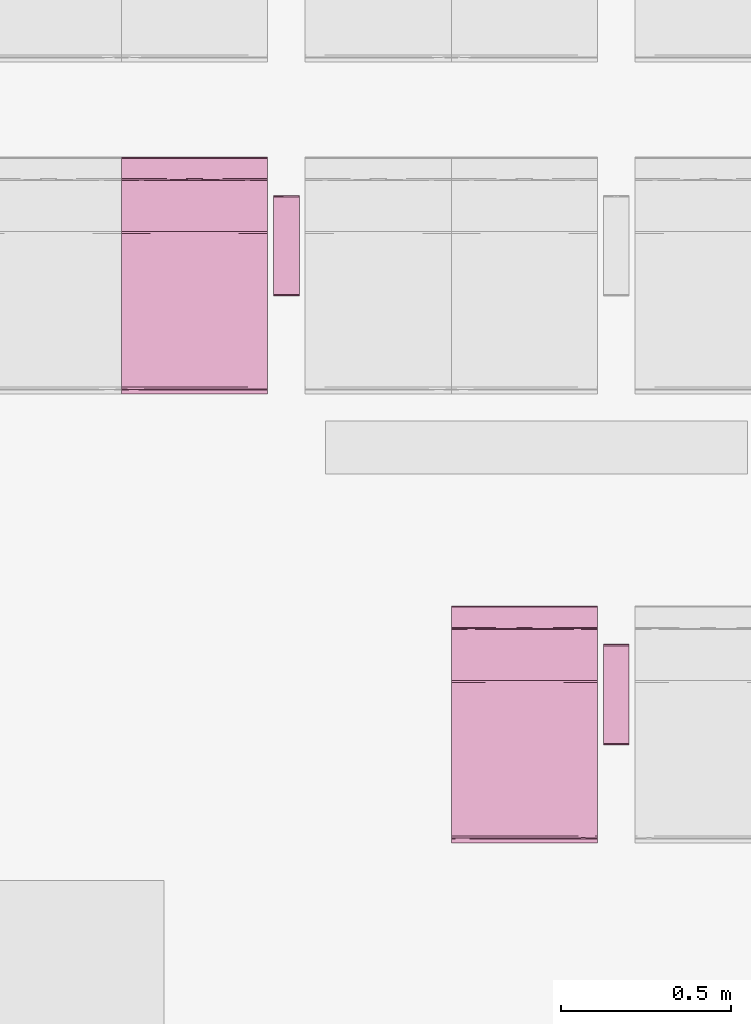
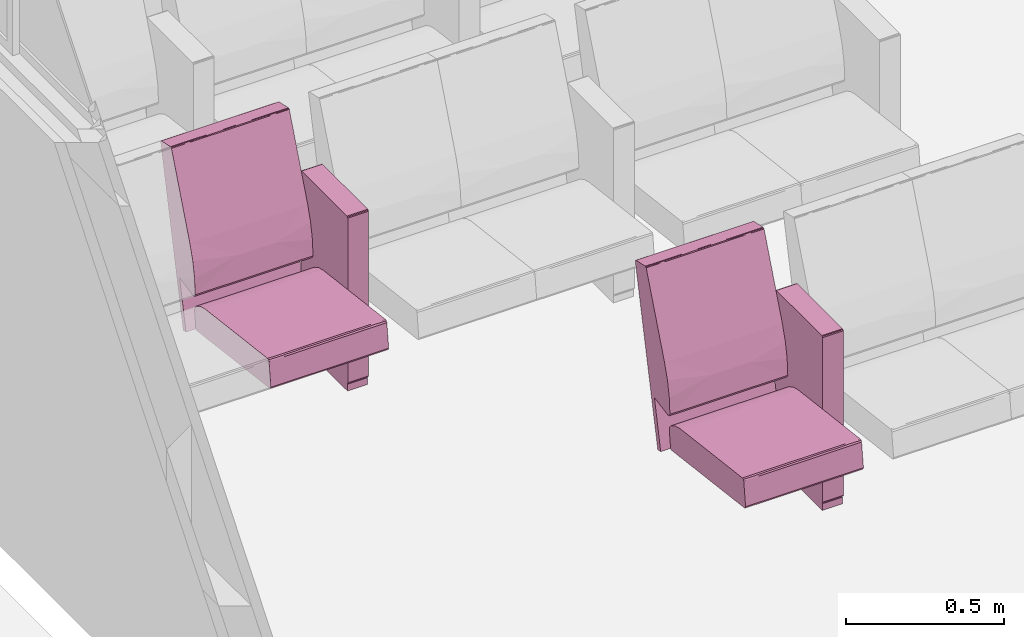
# One storey, part 81 of 155: 2 furnishings.
"""IFC2X3 building model written with IfcOpenShell, lengths in metres."""

import ifcopenshell
import ifcopenshell.guid

model = None  # the IFC model being written
_history = None  # IfcOwnerHistory: only IFC2X3 demands one
_inside = {}  # id of a spatial element -> (the spatial element, [elements in it])
_under = {}  # id of a project, library or spatial element -> (it, [spatial elements below it])
_declared = {}  # id of a project -> (the project, [libraries it declares])
_typed = {}  # id of a type object -> (the type object, [elements of that type])
_made_of = {}  # id of a material, layer set ... -> (it, [elements and type objects made of it])


def new_model(schema):
    """Start an empty IFC model of exactly this schema.

    Asked for "IFC4X3", IfcOpenShell would pick the latest addendum, in which some entities
    have other attributes; the version numbers below select the first issue.
    IFC2X3 requires an IfcOwnerHistory on every rooted entity: one is made here for all.
    """
    global model, _history
    if schema == "IFC4X3":
        model = ifcopenshell.file(schema_version=(4, 3, 0, 0))
    else:
        model = ifcopenshell.file(schema=schema)
    _inside.clear()
    _under.clear()
    _declared.clear()
    _typed.clear()
    _made_of.clear()
    _history = None
    if model.schema == "IFC2X3":
        org = make("IfcOrganization", Name="unknown")
        user = make(
            "IfcPersonAndOrganization",
            ThePerson=make("IfcPerson", FamilyName="unknown"),
            TheOrganization=org,
        )
        app = make(
            "IfcApplication",
            ApplicationDeveloper=org,
            Version="unknown",
            ApplicationFullName="unknown",
            ApplicationIdentifier="unknown",
        )
        _history = make(
            "IfcOwnerHistory",
            OwningUser=user,
            OwningApplication=app,
            ChangeAction="ADDED",
            CreationDate=0,
        )
    return model


def make(cls, **values):
    """One entity of the class cls with the attributes given. An attribute that is None is left unset."""
    return model.create_entity(
        cls, **{name: value for name, value in values.items() if value is not None}
    )


def entity(cls, *values):
    """Any entity or typed value of the class cls, its attributes in the order of the schema. None: left unset."""
    e = model.create_entity(cls)
    for i, value in enumerate(values):
        if value is not None:
            e[i] = value
    return e


def rooted(cls, **values):
    """An entity with a GlobalId (a new one), such as an element, a storey or a relation."""
    return make(cls, GlobalId=ifcopenshell.guid.new(), OwnerHistory=_history, **values)


def si_unit(unit_type, name, prefix=None):
    """IfcSIUnit, for example si_unit("LENGTHUNIT", "METRE", prefix="MILLI")."""
    return make("IfcSIUnit", UnitType=unit_type, Prefix=prefix, Name=name)


def converted_unit(unit_type, name, factor, base, dimensions=None, offset=None):
    """IfcConversionBasedUnit, such as the inch: factor (a typed value) times the base unit."""
    return make(
        "IfcConversionBasedUnit"
        if offset is None
        else "IfcConversionBasedUnitWithOffset",
        ConversionOffset=offset,
        Dimensions=None
        if dimensions is None
        else entity("IfcDimensionalExponents", *dimensions),
        UnitType=unit_type,
        Name=name,
        ConversionFactor=make(
            "IfcMeasureWithUnit", ValueComponent=factor, UnitComponent=base
        ),
    )


def derived_unit(unit_type, elements):
    """IfcDerivedUnit: a product of units, each with its exponent."""
    return make(
        "IfcDerivedUnit",
        Elements=[
            make("IfcDerivedUnitElement", Unit=unit, Exponent=power)
            for unit, power in elements
        ],
        UnitType=unit_type,
    )


def assignment(units):
    """IfcUnitAssignment: the units of a project."""
    return None if units is None else make("IfcUnitAssignment", Units=units)


def point(xyz):
    """IfcCartesianPoint."""
    return None if xyz is None else make("IfcCartesianPoint", Coordinates=xyz)


def direction(xyz):
    """IfcDirection."""
    return None if xyz is None else make("IfcDirection", DirectionRatios=xyz)


def frame(location, z_axis=None, x_axis=None):
    """IfcAxis2Placement3D, a coordinate frame: its origin and axes. An axis left out is left unset."""
    return make(
        "IfcAxis2Placement3D",
        Location=point(location),
        Axis=direction(z_axis),
        RefDirection=direction(x_axis),
    )


def origin():
    """The frame at (0, 0, 0) with its axes left unset."""
    return frame((0.0, 0.0, 0.0))


def place(relative_to, where):
    """IfcLocalPlacement: puts the frame where relative to a parent placement (None: the world)."""
    return make(
        "IfcLocalPlacement", PlacementRelTo=relative_to, RelativePlacement=where
    )


def context(
    kind, dimensions, precision=None, world=None, true_north=None, identifier=None
):
    """IfcGeometricRepresentationContext, for example the 3D "Model" context."""
    return make(
        "IfcGeometricRepresentationContext",
        ContextIdentifier=identifier,
        ContextType=kind,
        CoordinateSpaceDimension=dimensions,
        Precision=precision,
        WorldCoordinateSystem=world,
        TrueNorth=true_north,
    )


def subcontext(parent, identifier, kind, view, scale=None):
    """IfcGeometricRepresentationSubContext, for example "Body" below "Model"."""
    return make(
        "IfcGeometricRepresentationSubContext",
        ContextIdentifier=identifier,
        ContextType=kind,
        ParentContext=parent,
        TargetScale=scale,
        TargetView=view,
    )


def project(units=None, contexts=None):
    """IfcProject with its units and contexts."""
    return rooted(
        "IfcProject",
        Name="project",
        RepresentationContexts=contexts,
        UnitsInContext=assignment(units),
    )


def spatial(cls, under=None, at=None, **own):
    """A site, building, storey or space (cls), placed at a placement, below another one or the project."""
    s = rooted(cls, ObjectPlacement=at, **own)
    if under is not None:
        _under.setdefault(under.id(), (under, []))[1].append(s)
    return s


def faces_of(points, faces, orient=None, outer=None):
    """IfcFace entities. A face is a list of loops; a loop is a list of indices into points, from 0.

    orient and outer hold one flag for each loop. By default every Orientation is true, the
    first loop of a face is its IfcFaceOuterBound and the others are IfcFaceBound.
    """
    made = []
    for i, loops in enumerate(faces):
        bounds = []
        for j, loop in enumerate(loops):
            is_outer = j == 0 if outer is None else outer[i][j]
            bounds.append(
                make(
                    "IfcFaceOuterBound" if is_outer else "IfcFaceBound",
                    Bound=make("IfcPolyLoop", Polygon=[points[k] for k in loop]),
                    Orientation=True if orient is None else orient[i][j],
                )
            )
        made.append(make("IfcFace", Bounds=bounds))
    return made


def faceted_brep(points, faces, orient=None, outer=None, voids=None):
    """IfcFacetedBrep: a solid bounded by flat faces; with voids (closed shells), ...WithVoids."""
    shared = [point(p) for p in points]
    hull = make("IfcClosedShell", CfsFaces=faces_of(shared, faces, orient, outer))
    if voids is None:
        return make("IfcFacetedBrep", Outer=hull)
    return make(
        "IfcFacetedBrepWithVoids",
        Outer=hull,
        Voids=[
            make(cls, CfsFaces=faces_of(shared, fs, o, b)) for cls, fs, o, b in voids
        ],
    )


def shape(context_of_items, identifier, shape_type, items):
    """IfcShapeRepresentation: the items that make up one representation, for example the "Body"."""
    return make(
        "IfcShapeRepresentation",
        ContextOfItems=context_of_items,
        RepresentationIdentifier=identifier,
        RepresentationType=shape_type,
        Items=items,
    )


def source(mapping_origin, context_of_items, identifier, shape_type, items):
    """IfcRepresentationMap: a shape defined once, which mapped items show again and again."""
    return make(
        "IfcRepresentationMap",
        MappingOrigin=mapping_origin,
        MappedRepresentation=shape(context_of_items, identifier, shape_type, items),
    )


def transform(
    local_origin,
    x_axis=None,
    y_axis=None,
    z_axis=None,
    scale=None,
    scale2=None,
    scale3=None,
    uniform=True,
):
    """IfcCartesianTransformationOperator3D, or its non-uniform kind. x_axis, y_axis, z_axis: its Axis1, 2, 3."""
    if uniform:
        return make(
            "IfcCartesianTransformationOperator3D",
            Axis1=direction(x_axis),
            Axis2=direction(y_axis),
            LocalOrigin=point(local_origin),
            Scale=scale,
            Axis3=direction(z_axis),
        )
    return make(
        "IfcCartesianTransformationOperator3DnonUniform",
        Axis1=direction(x_axis),
        Axis2=direction(y_axis),
        LocalOrigin=point(local_origin),
        Scale=scale,
        Axis3=direction(z_axis),
        Scale2=scale2,
        Scale3=scale3,
    )


def mapped(mapping_source, mapping_target):
    """IfcMappedItem: shows the shape of a source again, moved by a transform."""
    return make(
        "IfcMappedItem", MappingSource=mapping_source, MappingTarget=mapping_target
    )


def material(Name=None, Category=None):
    """IfcMaterial."""
    return make("IfcMaterial", Name=Name, Category=Category)


def material_list(materials):
    """IfcMaterialList."""
    return make("IfcMaterialList", Materials=materials)


def made_of(thing, what):
    """Note that an element or type object is made of a material, layer set ...; save() writes the relation."""
    if what is not None:
        _made_of.setdefault(what.id(), (what, []))[1].append(thing)
    return thing


def type_object(cls, material=None, **own):
    """A type object (cls), such as IfcWallType, which elements share."""
    return made_of(rooted(cls, **own), material)


def type_shapes(of_type, sources):
    """Give a type object the sources (RepresentationMaps) that its elements show as mapped items."""
    of_type.RepresentationMaps = sources


def element(
    cls,
    number,
    at=None,
    inside=None,
    cuts=None,
    type_object=None,
    material=None,
    context=None,
    identifier="Body",
    shape_type=None,
    held_by="IfcProductDefinitionShape",
    body=None,
    shapes=None,
    **own,
):
    """One element of the class cls, such as IfcWall. Its Tag is "e" and its number.

    at: its placement. inside: the storey or other place that contains it. cuts: it is an
    opening in that element (IfcRelVoidsElement). A single representation is given by context,
    identifier, shape_type and body (its items); several are given by shapes. held_by: the class
    of the entity that holds the representations. save() writes the other relations.
    """
    e = rooted(cls, Tag="e%d" % number, ObjectPlacement=at, **own)
    if body is not None:
        shapes = [shape(context, identifier, shape_type, body)]
    if shapes is not None:
        e.Representation = make(held_by, Representations=shapes)
    if inside is not None:
        _inside.setdefault(inside.id(), (inside, []))[1].append(e)
    if cuts is not None:
        rooted(
            "IfcRelVoidsElement", RelatingBuildingElement=cuts, RelatedOpeningElement=e
        )
    if type_object is not None:
        _typed.setdefault(type_object.id(), (type_object, []))[1].append(e)
    return made_of(e, material)


def aggregate(whole, parts):
    """IfcRelAggregates: a whole, such as a stair, and the parts it consists of."""
    return rooted("IfcRelAggregates", RelatingObject=whole, RelatedObjects=parts)


def save(model, path):
    """Write the relations noted so far, then the file.

    IfcRelAggregates (storeys below a building ...), IfcRelContainedInSpatialStructure (elements
    in a storey), IfcRelDefinesByType, IfcRelAssociatesMaterial and IfcRelDeclares: one each for
    every whole, place, type object, material and project.
    """
    for whole, parts in _under.values():
        aggregate(whole, parts)
    for where, things in _inside.values():
        rooted(
            "IfcRelContainedInSpatialStructure",
            RelatedElements=things,
            RelatingStructure=where,
        )
    for kind, things in _typed.values():
        rooted("IfcRelDefinesByType", RelatedObjects=things, RelatingType=kind)
    for what, things in _made_of.values():
        rooted("IfcRelAssociatesMaterial", RelatedObjects=things, RelatingMaterial=what)
    for by, libraries in _declared.values():
        rooted("IfcRelDeclares", RelatingContext=by, RelatedDefinitions=libraries)
    model.write(path)


model = new_model("IFC2X3")

# Units and contexts
model_context = context("Model", 3, precision=1e-05, world=origin(), true_north=direction((6.12303176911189e-17, 1.0)))
body_context = subcontext(model_context, "Body", "Model", "MODEL_VIEW")
ifc_project = project(units=[si_unit("LENGTHUNIT", "METRE"), si_unit("AREAUNIT", "SQUARE_METRE"), si_unit("VOLUMEUNIT", "CUBIC_METRE"), converted_unit("PLANEANGLEUNIT", "DEGREE", entity("IfcRatioMeasure", 0.0174532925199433), si_unit("PLANEANGLEUNIT", "RADIAN"), dimensions=[0, 0, 0, 0, 0, 0, 0]), si_unit("MASSUNIT", "GRAM", prefix="KILO"), derived_unit("MASSDENSITYUNIT", [(si_unit("MASSUNIT", "GRAM", prefix="KILO"), 1), (si_unit("LENGTHUNIT", "METRE"), -3)]), si_unit("TIMEUNIT", "SECOND"), si_unit("FREQUENCYUNIT", "HERTZ"), si_unit("THERMODYNAMICTEMPERATUREUNIT", "DEGREE_CELSIUS"), derived_unit("THERMALTRANSMITTANCEUNIT", [(si_unit("MASSUNIT", "GRAM", prefix="KILO"), 1), (si_unit("THERMODYNAMICTEMPERATUREUNIT", "KELVIN"), -1), (si_unit("TIMEUNIT", "SECOND"), -3)]), derived_unit("VOLUMETRICFLOWRATEUNIT", [(si_unit("LENGTHUNIT", "METRE"), 3), (si_unit("TIMEUNIT", "SECOND"), -1)]), si_unit("ELECTRICCURRENTUNIT", "AMPERE"), si_unit("ELECTRICVOLTAGEUNIT", "VOLT"), si_unit("POWERUNIT", "WATT"), si_unit("FORCEUNIT", "NEWTON", prefix="KILO"), si_unit("ILLUMINANCEUNIT", "LUX"), si_unit("LUMINOUSFLUXUNIT", "LUMEN"), si_unit("LUMINOUSINTENSITYUNIT", "CANDELA"), derived_unit("USERDEFINED", [(si_unit("MASSUNIT", "GRAM", prefix="KILO"), -1), (si_unit("LENGTHUNIT", "METRE"), -2), (si_unit("TIMEUNIT", "SECOND"), 3), (si_unit("LUMINOUSFLUXUNIT", "LUMEN"), 1)]), derived_unit("LINEARVELOCITYUNIT", [(si_unit("LENGTHUNIT", "METRE"), 1), (si_unit("TIMEUNIT", "SECOND"), -1)]), si_unit("PRESSUREUNIT", "PASCAL"), derived_unit("USERDEFINED", [(si_unit("LENGTHUNIT", "METRE"), -2), (si_unit("MASSUNIT", "GRAM", prefix="KILO"), 1), (si_unit("TIMEUNIT", "SECOND"), -2)])], contexts=[model_context])

# Site, building, storey, space
site_placement = place(None, frame((26.9889013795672, -17.5624287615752, 0.0)))
site = spatial("IfcSite", under=ifc_project, at=site_placement, Name="Default", CompositionType="ELEMENT")
building_placement = place(site_placement, origin())
building = spatial("IfcBuilding", under=site, at=building_placement, Name="C. C. L. Monsenhor Antônio Sampaio", CompositionType="ELEMENT")
storey_placement = place(building_placement, frame((0.0, 0.0, 1.19999999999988)))
storey = spatial("IfcBuildingStorey", under=building, at=storey_placement, Name="Nível 1.2", CompositionType="ELEMENT", Elevation=1.19999999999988)
space_placement = place(storey_placement, origin())
space = spatial("IfcSpace", under=storey, at=space_placement, Name="94", CompositionType="ELEMENT", InteriorOrExteriorSpace="INTERNAL")

# Furnishings
ifc_material_1 = material(Name="V9 - V9 - Ecopelle_672_658")
ifc_material_2 = material(Name="V9 - V9 - RAL_9006_Grigio")
ifc_material_list_1 = material_list([ifc_material_1, ifc_material_2])
ifc_material_list_2 = material_list([ifc_material_1, ifc_material_2])
furniture_type = type_object("IfcFurnitureType", Name="Cadeira auditório", material=ifc_material_list_2)
shared_shape = source(origin(), body_context, "Body", "Brep", [
    faceted_brep([(0.405536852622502, -0.1075, 0.339809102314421), (0.410560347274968, -0.131924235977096, 0.34246450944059), (0.405536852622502, -0.156348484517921, 0.339809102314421), (0.41079981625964, -0.0179166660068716, 0.342749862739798), (0.410597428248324, -0.084060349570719, 0.342506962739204), (0.405536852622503, -0.0537499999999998, 0.339809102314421), (0.410248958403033, -0.173608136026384, 0.342130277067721), (0.405536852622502, -0.215, 0.339809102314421), (0.412515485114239, -0.143333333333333, 0.348529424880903), (0.412515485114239, -0.185674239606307, 0.348529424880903), (0.405536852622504, 0.1075, 0.33980910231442), (0.405536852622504, 0.156348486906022, 0.33980910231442), (0.410560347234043, 0.131924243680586, 0.342464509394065), (0.405536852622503, 0.0, 0.33980910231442), (0.411170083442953, 0.0341365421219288, 0.343251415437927), (0.41251548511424, 0.0, 0.348529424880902), (0.412515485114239, -0.0358333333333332, 0.348529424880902), (0.412515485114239, -0.0716666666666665, 0.348529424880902), (0.41251548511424, 0.143333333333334, 0.348529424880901), (0.41059742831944, 0.0840603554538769, 0.342506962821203), (0.405536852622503, 0.0537500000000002, 0.33980910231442), (0.410248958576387, 0.173608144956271, 0.342130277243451), (0.410799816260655, 0.215, 0.342749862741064), (0.412515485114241, 0.185674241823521, 0.348529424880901), (0.412515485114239, -0.215, 0.348529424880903), (0.410799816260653, -0.215, 0.342749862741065), (0.412515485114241, 0.215, 0.348529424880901), (0.41251548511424, 0.0716666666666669, 0.348529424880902), (0.405536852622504, 0.215, 0.33980910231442), (-0.0557900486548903, -0.215, 0.28268145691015), (-0.0557900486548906, -0.1881249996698, 0.282681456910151), (-0.0557900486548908, -0.161250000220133, 0.282681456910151), (-0.055790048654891, -0.134374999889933, 0.282681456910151), (-0.0557900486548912, -0.107499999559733, 0.282681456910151), (-0.0557900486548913, -0.0806250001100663, 0.282681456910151), (-0.0557900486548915, -0.0537499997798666, 0.282681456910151), (-0.0557900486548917, -0.0268749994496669, 0.282681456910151), (-0.0557900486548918, 0.0, 0.28268145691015), (-0.0557900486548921, 0.0268750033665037, 0.282681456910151), (-0.0557900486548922, 0.0537499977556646, 0.282681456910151), (-0.0557900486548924, 0.0806249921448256, 0.282681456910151), (-0.0557900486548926, 0.107499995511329, 0.282681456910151), (-0.0557900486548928, 0.138065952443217, 0.282681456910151), (-0.055790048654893, 0.168631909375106, 0.282681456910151), (-0.0557900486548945, 0.215, 0.28268145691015), (-0.0594787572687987, -0.0179017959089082, 0.283700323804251), (-0.0613666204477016, 0.0, 0.287029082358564), (-0.0594787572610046, 0.0152829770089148, 0.283700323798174), (-0.0594787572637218, -0.215, 0.283700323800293), (-0.0613666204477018, -0.215, 0.287029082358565), (-0.0613666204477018, -0.191815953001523, 0.287029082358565), (-0.0613666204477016, -0.030565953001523, 0.287029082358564), (-0.0593340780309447, -0.0671874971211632, 0.283591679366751), (-0.0593337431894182, 0.184174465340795, 0.283591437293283), (-0.0594787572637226, 0.215, 0.283700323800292), (-0.0593023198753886, 0.0940625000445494, 0.283568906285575), (-0.0613666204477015, 0.0611319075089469, 0.287029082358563), (-0.0613666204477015, 0.0916978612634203, 0.287029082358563), (-0.0613666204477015, 0.122263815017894, 0.287029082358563), (-0.0597338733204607, -0.147039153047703, 0.283913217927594), (-0.0613666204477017, -0.122263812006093, 0.287029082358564), (-0.059382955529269, -0.118123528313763, 0.28362747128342), (-0.0592501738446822, -0.180223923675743, 0.283532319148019), (-0.0613666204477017, -0.168631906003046, 0.287029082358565), (-0.0588783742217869, -0.0926899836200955, 0.283298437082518), (-0.0613666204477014, 0.168631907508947, 0.287029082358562), (-0.0613666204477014, 0.215, 0.287029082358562), (-0.0592576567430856, 0.123736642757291, 0.283537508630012), (-0.0594787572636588, 0.153348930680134, 0.283700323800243), (-0.0613666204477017, -0.0916978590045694, 0.287029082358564), (-0.0613666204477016, 0.0305659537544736, 0.287029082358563), (-0.059645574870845, 0.045848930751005, 0.283836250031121), (-0.0613666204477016, -0.0611319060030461, 0.287029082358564), (-0.0693403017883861, 0.143333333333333, 0.351419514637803), (-0.069340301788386, 0.215, 0.351419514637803), (-0.0693403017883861, -0.215, 0.351419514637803), (-0.0693403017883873, -0.143333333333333, 0.351419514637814), (-0.069340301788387, -0.0716666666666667, 0.351419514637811), (-0.0693403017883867, 0.0, 0.351419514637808), (-0.0693403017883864, 0.0716666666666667, 0.351419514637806), (-0.0653387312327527, -0.0126787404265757, 0.368680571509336), (-0.0645543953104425, -0.112272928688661, 0.369803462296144), (-0.0597085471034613, 0.0, 0.37476954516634), (-0.0655136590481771, 0.104400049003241, 0.368411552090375), (-0.0681665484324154, 0.0888707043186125, 0.36292533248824), (-0.0694879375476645, -0.0590582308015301, 0.356377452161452), (-0.0695056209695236, 0.125492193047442, 0.356093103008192), (-0.0597085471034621, 0.110316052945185, 0.374769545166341), (-0.0676206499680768, -0.215, 0.364371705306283), (-0.0672851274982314, -0.108066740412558, 0.365148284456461), (-0.0690003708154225, -0.132942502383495, 0.359900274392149), (-0.068624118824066, -0.215, 0.356813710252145), (-0.0686241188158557, 0.214999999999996, 0.356813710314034), (-0.0694502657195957, 0.0358333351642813, 0.356863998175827), (-0.0686999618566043, -0.035833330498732, 0.36116674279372), (-0.067620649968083, 0.214999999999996, 0.364371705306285), (-0.063664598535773, 0.214999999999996, 0.369570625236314), (-0.0597085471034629, 0.214999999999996, 0.374769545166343), (-0.0597085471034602, -0.110316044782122, 0.374769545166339), (-0.0636645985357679, -0.215, 0.36957062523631), (-0.0597085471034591, -0.215, 0.374769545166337), (-0.0018793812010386, -0.215, 0.398686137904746), (-0.0324117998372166, -0.0436847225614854, 0.39063968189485), (-0.0324117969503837, -0.215, 0.390639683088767), (-0.041847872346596, 0.0856576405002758, 0.386239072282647), (-0.00187938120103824, 0.102488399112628, 0.398686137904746), (-0.00187938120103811, 0.215, 0.398686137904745), (-0.0324117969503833, 0.215, 0.390639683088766), (-0.0219042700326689, 0.0570631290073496, 0.394412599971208), (-0.00187938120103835, 0.0, 0.398686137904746), (0.392202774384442, -0.215, 0.447486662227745), (0.392202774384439, -0.156349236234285, 0.447486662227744), (0.392202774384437, -0.107499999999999, 0.447486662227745), (0.392202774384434, -0.0537499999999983, 0.447486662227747), (0.392202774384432, 0.0, 0.447486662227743), (0.392202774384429, 0.0537500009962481, 0.44748666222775), (0.392202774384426, 0.107500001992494, 0.447486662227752), (0.392202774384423, 0.156349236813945, 0.447486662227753), (0.392202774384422, 0.215, 0.447486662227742), (0.397860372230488, 0.0827732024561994, 0.446039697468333), (0.401125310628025, 0.0976984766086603, 0.440530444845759), (0.398104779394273, 0.131924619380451, 0.445856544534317), (0.397373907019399, 0.173462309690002, 0.446363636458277), (0.401125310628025, 0.156349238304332, 0.440530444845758), (0.401125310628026, 0.215000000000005, 0.440530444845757), (0.398104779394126, 0.215000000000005, 0.445856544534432), (0.397860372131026, -0.0827731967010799, 0.446039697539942), (0.398104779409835, -0.131924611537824, 0.445856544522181), (0.398104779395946, -0.0268749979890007, 0.445856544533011), (0.398104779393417, 0.0237489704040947, 0.445856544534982), (0.401125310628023, -0.0488492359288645, 0.440530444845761), (0.401125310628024, 0.0488492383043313, 0.44053044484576), (0.398774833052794, -0.173462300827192, 0.445271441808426), (0.401125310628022, -0.0976984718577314, 0.440530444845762), (0.39810477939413, -0.215, 0.445856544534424), (0.401125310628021, -0.215, 0.440530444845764), (0.401125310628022, -0.156349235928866, 0.440530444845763), (0.401125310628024, 0.0, 0.44053044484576)], [[[0, 1, 2]], [[3, 4, 5]], [[2, 6, 7]], [[8, 9, 6]], [[10, 11, 12]], [[13, 3, 5]], [[3, 14, 15]], [[1, 4, 8]], [[6, 1, 8]], [[4, 3, 16]], [[16, 17, 8, 4]], [[12, 18, 19]], [[4, 1, 0]], [[20, 14, 13]], [[21, 22, 23]], [[15, 16, 3]], [[9, 24, 25]], [[26, 23, 22]], [[7, 6, 25]], [[12, 11, 21]], [[19, 14, 20]], [[4, 0, 5]], [[14, 27, 15]], [[13, 14, 3]], [[19, 18, 27]], [[19, 10, 12]], [[18, 21, 23]], [[10, 19, 20]], [[19, 27, 14]], [[2, 1, 6]], [[21, 11, 28]], [[25, 6, 9]], [[18, 12, 21]], [[22, 21, 28]], [[28, 11, 10, 20, 13, 5, 0, 2, 7, 29, 30, 31, 32, 33, 34, 35, 36, 37, 38, 39, 40, 41, 42, 43, 44]], [[45, 46, 47]], [[48, 49, 50]], [[51, 45, 52]], [[53, 54, 44]], [[55, 56, 57, 58]], [[59, 60, 61]], [[62, 63, 59]], [[34, 64, 52]], [[53, 65, 66]], [[41, 67, 42]], [[37, 36, 35, 45, 47, 38]], [[43, 42, 68]], [[29, 48, 30]], [[59, 31, 62]], [[62, 48, 50]], [[61, 69, 64]], [[65, 53, 68]], [[50, 63, 62]], [[62, 30, 48]], [[55, 58, 67]], [[32, 31, 59]], [[46, 70, 47]], [[65, 68, 58]], [[55, 40, 71]], [[70, 56, 71]], [[61, 33, 32]], [[59, 63, 60]], [[39, 38, 71, 40]], [[47, 71, 38]], [[51, 46, 45]], [[70, 71, 47]], [[71, 56, 55]], [[40, 55, 41]], [[67, 68, 42]], [[43, 68, 53]], [[43, 53, 44]], [[66, 54, 53]], [[68, 67, 58]], [[55, 67, 41]], [[72, 51, 52, 69]], [[62, 31, 30]], [[59, 61, 32]], [[35, 52, 45]], [[64, 34, 33]], [[34, 52, 35]], [[61, 60, 69]], [[52, 64, 69]], [[61, 64, 33]], [[73, 74, 66, 65, 58, 57, 56, 70, 46, 51, 72, 69, 60, 63, 50, 49, 75, 76, 77, 78, 79]], [[80, 81, 82]], [[83, 84, 80]], [[85, 78, 77, 76]], [[73, 79, 86]], [[80, 82, 83]], [[87, 83, 82]], [[88, 89, 90]], [[76, 75, 91]], [[92, 74, 73]], [[91, 90, 85]], [[80, 89, 81]], [[84, 93, 94]], [[84, 86, 93]], [[93, 78, 85]], [[73, 86, 92]], [[94, 93, 85]], [[95, 92, 84]], [[78, 93, 79]], [[80, 84, 94]], [[83, 96, 95]], [[94, 85, 90]], [[87, 97, 96]], [[98, 99, 100]], [[91, 85, 76]], [[94, 90, 89]], [[90, 91, 88]], [[89, 80, 94]], [[89, 99, 81]], [[89, 88, 99]], [[82, 81, 98]], [[81, 99, 98]], [[92, 86, 84]], [[93, 86, 79]], [[84, 83, 95]], [[96, 83, 87]], [[101, 102, 103]], [[104, 97, 87, 82]], [[105, 106, 107]], [[107, 108, 105]], [[109, 102, 101]], [[82, 102, 104]], [[102, 108, 104]], [[103, 102, 100]], [[97, 104, 107]], [[104, 108, 107]], [[102, 82, 98, 100]], [[105, 108, 109]], [[108, 102, 109]], [[109, 101, 110, 111, 112, 113, 114, 115, 116, 117, 118, 106, 105]], [[119, 120, 121]], [[122, 123, 124]], [[122, 125, 118]], [[126, 113, 112]], [[117, 121, 122]], [[121, 117, 116]], [[112, 111, 127]], [[113, 128, 129, 115, 114]], [[126, 130, 128]], [[129, 131, 119]], [[111, 132, 127]], [[132, 111, 110]], [[133, 126, 127]], [[123, 122, 121]], [[132, 134, 135]], [[127, 132, 136]], [[123, 121, 120]], [[127, 136, 133]], [[129, 128, 130, 137, 131]], [[112, 127, 126]], [[126, 133, 130]], [[119, 121, 116]], [[113, 126, 128]], [[119, 115, 129]], [[119, 116, 115]], [[120, 119, 131]], [[117, 122, 118]], [[124, 125, 122]], [[136, 132, 135]], [[110, 134, 132]], [[137, 130, 133, 136, 135, 24, 9, 8, 17, 16, 15, 27, 18, 23, 26, 124, 123, 120, 131]], [[44, 54, 66, 74, 92, 95, 96, 97, 107, 106, 118, 125, 124, 26, 22, 28]], [[75, 49, 48, 29, 7, 25, 24, 135, 134, 110, 101, 103, 100, 99, 88, 91]]]),
    faceted_brep([(0.119812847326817, 0.27, 0.674900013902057), (0.12334838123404, 0.259944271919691, 0.6734355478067), (0.123144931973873, 0.283972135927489, 0.673627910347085), (0.124812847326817, 0.27, 0.669900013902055), (0.119812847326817, 0.232, 0.674900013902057), (0.12334838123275, 0.232, 0.673435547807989), (0.124812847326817, 0.308, 0.669900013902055), (0.119812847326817, 0.308, 0.674900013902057), (0.124812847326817, 0.249888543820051, 0.669900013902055), (0.124812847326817, 0.232, 0.669900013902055), (0.12334838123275, 0.308, 0.673435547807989), (0.124812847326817, 0.232, 0.0349999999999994), (0.124812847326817, 0.27, 0.035), (0.124812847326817, 0.308, 0.035), (0.12334838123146, 0.25994427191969, 0.0314644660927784), (0.123540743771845, 0.283972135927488, 0.0316679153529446), (0.119812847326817, 0.27, 0.0300000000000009), (0.12334838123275, 0.232, 0.0314644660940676), (0.119812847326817, 0.308, 0.0300000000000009), (0.119812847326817, 0.249888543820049, 0.030000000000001), (0.119812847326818, 0.232, 0.030000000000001), (0.123348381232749, 0.308, 0.0314644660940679), (-0.167179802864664, 0.27, 0.0300000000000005), (-0.167179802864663, 0.308, 0.0300000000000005), (-0.167179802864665, 0.232, 0.0300000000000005), (-0.170715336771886, 0.25994427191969, 0.0314644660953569), (-0.17051188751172, 0.283972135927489, 0.0312721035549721), (-0.172179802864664, 0.27, 0.0350000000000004), (-0.170715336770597, 0.232, 0.0314644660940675), (-0.172179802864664, 0.308, 0.0350000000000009), (-0.172179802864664, 0.24988854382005, 0.0350000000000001), (-0.172179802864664, 0.232, 0.0349999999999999), (-0.170715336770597, 0.308, 0.0314644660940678), (-0.172179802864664, 0.308, 0.669900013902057), (-0.172179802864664, 0.232, 0.669900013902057), (-0.172179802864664, 0.27, 0.669900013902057), (-0.170715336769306, 0.259944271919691, 0.673435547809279), (-0.170907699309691, 0.283972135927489, 0.673232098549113), (-0.167179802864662, 0.27, 0.674900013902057), (-0.170715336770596, 0.232, 0.67343554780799), (-0.167179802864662, 0.308, 0.674900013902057), (-0.167179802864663, 0.249888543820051, 0.674900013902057), (-0.167179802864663, 0.232, 0.674900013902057), (-0.170715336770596, 0.308, 0.67343554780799)], [[[0, 1, 2]], [[3, 2, 1]], [[0, 4, 5, 1]], [[2, 3, 6]], [[0, 2, 7]], [[8, 3, 1, 5, 9]], [[7, 2, 10]], [[6, 10, 2]], [[9, 11, 12, 13, 6, 3, 8]], [[12, 14, 15]], [[16, 15, 14]], [[12, 11, 17, 14]], [[15, 16, 18]], [[12, 15, 13]], [[19, 16, 14, 17, 20]], [[13, 15, 21]], [[18, 21, 15]], [[22, 23, 18, 16, 19, 20, 24]], [[22, 25, 26]], [[27, 26, 25]], [[22, 24, 28, 25]], [[26, 27, 29]], [[22, 26, 23]], [[30, 27, 25, 28, 31]], [[23, 26, 32]], [[29, 32, 26]], [[33, 29, 27, 30, 31, 34, 35]], [[35, 36, 37]], [[38, 37, 36]], [[35, 34, 39, 36]], [[37, 38, 40]], [[35, 37, 33]], [[41, 38, 36, 39, 42]], [[33, 37, 43]], [[40, 43, 37]], [[0, 7, 40, 38, 41, 42, 4]], [[42, 39, 34, 31, 28, 24, 20, 17, 11, 9, 5, 4]], [[23, 32, 29, 33, 43, 40, 7, 10, 6, 13, 21, 18]]]),
    faceted_brep([(-0.0655618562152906, -0.215, 0.415143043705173), (-0.0744051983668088, -0.0524423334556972, 0.506888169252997), (-0.0695672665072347, -0.215, 0.476508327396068), (-0.0655618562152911, 0.0, 0.415143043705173), (-0.0744051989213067, 0.0780075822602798, 0.506888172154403), (-0.0655618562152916, 0.1075, 0.415143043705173), (-0.0655618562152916, 0.215, 0.415143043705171), (-0.0655618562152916, -0.1075, 0.415143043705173), (-0.0695672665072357, 0.215, 0.476508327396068), (-0.0811110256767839, 0.215, 0.536911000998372), (-0.0811110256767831, -0.215, 0.536911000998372), (-0.100016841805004, 0.0, 0.595428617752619), (-0.100016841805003, -0.215, 0.595428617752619), (-0.100016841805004, 0.215, 0.595428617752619), (-0.0792851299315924, -0.0716666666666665, 0.404772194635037), (-0.0792851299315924, 0.0, 0.404772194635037), (-0.0698317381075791, -0.0358333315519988, 0.406528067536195), (-0.0698317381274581, 0.215, 0.406528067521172), (-0.0792851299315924, 0.143333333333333, 0.404772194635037), (-0.0792851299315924, 0.215, 0.404772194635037), (-0.0698317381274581, -0.215, 0.406528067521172), (-0.0792851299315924, -0.215, 0.404772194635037), (-0.0792851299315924, -0.143333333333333, 0.404772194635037), (-0.0694171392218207, -0.140338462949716, 0.406857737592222), (-0.0708115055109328, 0.0356393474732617, 0.405868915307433), (-0.0703502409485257, 0.107500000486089, 0.406159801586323), (-0.0792851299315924, 0.0716666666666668, 0.404772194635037), (-0.163837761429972, 0.215, 0.420611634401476), (-0.163837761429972, -0.215, 0.420611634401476), (-0.123612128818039, -0.215, 0.235917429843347), (-0.123612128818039, 0.215, 0.235917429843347), (-0.142059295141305, -0.215, 0.231899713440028), (-0.142059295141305, 0.215, 0.231899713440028), (-0.235388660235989, -0.215, 0.652619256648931), (-0.235388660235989, 0.215, 0.652619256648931), (-0.28428001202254, 0.0, 0.873004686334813), (-0.284280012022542, 0.0268749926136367, 0.873004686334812), (-0.284280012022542, 0.0537499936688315, 0.873004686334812), (-0.284280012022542, 0.0806249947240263, 0.873004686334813), (-0.284280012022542, 0.107499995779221, 0.873004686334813), (-0.284280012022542, 0.134374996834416, 0.873004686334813), (-0.284280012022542, 0.161249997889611, 0.873004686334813), (-0.284280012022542, 0.191295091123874, 0.873004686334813), (-0.28428001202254, 0.215, 0.873004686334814), (-0.284280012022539, -0.215, 0.873004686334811), (-0.28428001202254, -0.191295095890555, 0.873004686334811), (-0.284280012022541, -0.161249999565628, 0.873004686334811), (-0.284280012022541, -0.134374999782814, 0.873004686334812), (-0.284280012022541, -0.1075, 0.873004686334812), (-0.284280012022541, -0.0806250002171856, 0.873004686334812), (-0.284280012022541, -0.0537500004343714, 0.873004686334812), (-0.284280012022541, -0.0268749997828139, 0.873004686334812), (-0.283504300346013, -0.0569644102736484, 0.877068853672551), (-0.283746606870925, -0.0872244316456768, 0.876674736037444), (-0.283641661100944, 0.12093750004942, 0.876855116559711), (-0.283567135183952, 0.15546176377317, 0.876973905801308), (-0.28330409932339, -0.185293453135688, 0.877344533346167), (-0.283567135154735, -0.155461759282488, 0.876973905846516), (-0.280514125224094, 0.0, 0.879190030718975), (-0.280514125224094, 0.0358333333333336, 0.879190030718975), (-0.283641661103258, 0.0136463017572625, 0.876855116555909), (-0.283641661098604, -0.0179166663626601, 0.876855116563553), (-0.280514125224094, -0.0358333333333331, 0.879190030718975), (-0.280514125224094, 0.1075, 0.879190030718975), (-0.280514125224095, 0.143333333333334, 0.879190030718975), (-0.283746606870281, 0.0872244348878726, 0.876674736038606), (-0.280514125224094, 0.071666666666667, 0.879190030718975), (-0.280514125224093, -0.1075, 0.879190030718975), (-0.280514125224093, -0.0716666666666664, 0.879190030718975), (-0.280514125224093, -0.143333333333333, 0.879190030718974), (-0.283641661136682, -0.120937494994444, 0.876855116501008), (-0.283641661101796, -0.215, 0.876855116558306), (-0.283641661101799, 0.215, 0.876855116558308), (-0.280514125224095, 0.167590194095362, 0.879190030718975), (-0.283304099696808, 0.18529345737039, 0.877344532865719), (-0.280514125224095, 0.215, 0.879190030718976), (-0.280514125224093, -0.167590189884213, 0.879190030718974), (-0.280514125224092, -0.215, 0.879190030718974), (-0.283504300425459, 0.0569644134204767, 0.8770688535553), (-0.221112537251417, -0.215, 0.892176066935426), (-0.221112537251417, -0.19181594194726, 0.892176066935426), (-0.221112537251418, -0.16124999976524, 0.892176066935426), (-0.221112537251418, -0.13437499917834, 0.892176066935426), (-0.221112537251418, -0.10749999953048, 0.892176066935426), (-0.221112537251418, -0.08062499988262, 0.892176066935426), (-0.221112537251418, -0.0537500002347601, 0.892176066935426), (-0.221112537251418, -0.0268750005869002, 0.892176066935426), (-0.221112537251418, 0.0, 0.892176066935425), (-0.221112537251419, 0.0268750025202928, 0.892176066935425), (-0.221112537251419, 0.053749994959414, 0.892176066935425), (-0.221112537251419, 0.0806249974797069, 0.892176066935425), (-0.221112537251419, 0.1075, 0.892176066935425), (-0.221112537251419, 0.134375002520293, 0.892176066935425), (-0.221112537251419, 0.161250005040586, 0.892176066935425), (-0.221112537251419, 0.191815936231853, 0.892176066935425), (-0.221112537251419, 0.215, 0.892176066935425), (-0.217722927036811, -0.0162353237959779, 0.891719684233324), (-0.215419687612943, -0.0358333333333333, 0.889191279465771), (-0.215419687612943, 0.0, 0.889191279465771), (-0.217722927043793, 0.0134375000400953, 0.891719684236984), (-0.217722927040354, 0.120937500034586, 0.89171968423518), (-0.217722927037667, 0.0912646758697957, 0.891719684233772), (-0.215419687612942, 0.0716666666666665, 0.88919127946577), (-0.215419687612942, 0.1075, 0.88919127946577), (-0.215419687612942, 0.143333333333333, 0.88919127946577), (-0.217722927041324, 0.215, 0.891719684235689), (-0.217722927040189, 0.182482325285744, 0.891719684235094), (-0.215419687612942, 0.168631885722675, 0.889191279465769), (-0.215419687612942, 0.191815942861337, 0.889191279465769), (-0.215419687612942, 0.215, 0.889191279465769), (-0.217722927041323, -0.215, 0.89171968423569), (-0.215419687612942, -0.215, 0.889191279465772), (-0.215419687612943, -0.191815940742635, 0.889191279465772), (-0.217722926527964, -0.190103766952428, 0.891719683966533), (-0.2179983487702, 0.039082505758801, 0.891853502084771), (-0.217816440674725, 0.0647800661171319, 0.891767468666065), (-0.217558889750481, 0.155982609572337, 0.891629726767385), (-0.217722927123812, -0.120937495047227, 0.891719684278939), (-0.217558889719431, -0.15598260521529, 0.891629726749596), (-0.215419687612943, -0.143333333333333, 0.889191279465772), (-0.215419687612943, -0.16863188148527, 0.889191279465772), (-0.215419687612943, -0.0716666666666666, 0.889191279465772), (-0.217816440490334, -0.0647800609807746, 0.891767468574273), (-0.217722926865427, -0.0912646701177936, 0.891719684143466), (-0.215419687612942, 0.0358333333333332, 0.889191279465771), (-0.215419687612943, -0.1075, 0.889191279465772), (-0.218257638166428, -0.0404491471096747, 0.891961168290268)], [[[0, 1, 2]], [[3, 4, 1]], [[4, 3, 5, 6]], [[1, 0, 7, 3]], [[8, 4, 6]], [[9, 4, 8]], [[1, 10, 2]], [[1, 11, 12]], [[9, 13, 4]], [[13, 11, 4]], [[10, 1, 12]], [[11, 1, 4]], [[14, 15, 16]], [[17, 18, 19]], [[20, 21, 22]], [[20, 23, 0]], [[3, 7, 16]], [[15, 24, 16]], [[24, 25, 5]], [[22, 23, 20]], [[7, 23, 16]], [[6, 5, 17]], [[16, 24, 3]], [[16, 23, 14]], [[23, 22, 14]], [[18, 25, 26]], [[18, 17, 25]], [[26, 24, 15]], [[7, 0, 23]], [[5, 25, 17]], [[25, 24, 26]], [[3, 24, 5]], [[27, 19, 18, 26, 15, 14, 22, 21, 28]], [[27, 28, 29, 30]], [[31, 32, 30, 29]], [[33, 34, 32, 31]], [[35, 36, 37, 38, 39, 40, 41, 42, 43, 34, 33, 44, 45, 46, 47, 48, 49, 50, 51]], [[52, 49, 53]], [[54, 55, 40]], [[46, 56, 57]], [[58, 59, 60, 61, 62]], [[54, 63, 64]], [[65, 66, 63]], [[67, 68, 53]], [[57, 69, 70]], [[45, 56, 46]], [[39, 54, 40]], [[45, 44, 71]], [[72, 43, 42]], [[35, 51, 61, 60, 36]], [[55, 73, 74]], [[39, 65, 54]], [[74, 73, 75]], [[67, 53, 70]], [[74, 42, 41]], [[64, 73, 55]], [[56, 76, 57]], [[74, 72, 42]], [[76, 56, 77]], [[56, 71, 77]], [[57, 76, 69]], [[48, 70, 53]], [[70, 48, 47]], [[60, 78, 36]], [[63, 54, 65]], [[71, 56, 45]], [[41, 55, 74]], [[72, 74, 75]], [[57, 70, 47]], [[47, 46, 57]], [[69, 67, 70]], [[50, 49, 52, 51]], [[52, 62, 61]], [[61, 51, 52]], [[55, 41, 40]], [[55, 54, 64]], [[66, 65, 78]], [[65, 38, 78]], [[52, 53, 68]], [[37, 36, 78, 38]], [[78, 59, 66]], [[59, 78, 60]], [[49, 48, 53]], [[65, 39, 38]], [[52, 68, 62]], [[79, 80, 81, 82, 83, 84, 85, 86, 87, 88, 89, 90, 91, 92, 93, 94, 95, 75, 73, 64, 63, 66, 59, 58, 62, 68, 67, 69, 76, 77]], [[96, 97, 98, 99]], [[100, 101, 102, 103, 104]], [[105, 106, 107, 108, 109]], [[110, 111, 112]], [[80, 110, 113]], [[89, 114, 115]], [[92, 116, 93]], [[94, 93, 106, 105, 95]], [[80, 79, 110]], [[92, 91, 90, 101, 100]], [[99, 88, 87, 86, 96]], [[104, 107, 116]], [[117, 83, 82]], [[117, 118, 119]], [[112, 120, 113]], [[118, 120, 119]], [[118, 81, 113]], [[116, 107, 106]], [[101, 90, 115]], [[121, 122, 123]], [[104, 116, 100]], [[110, 112, 113]], [[114, 99, 124]], [[92, 100, 116]], [[117, 125, 123]], [[82, 81, 118]], [[118, 117, 82]], [[83, 117, 123]], [[125, 117, 119]], [[102, 101, 115]], [[84, 83, 123]], [[123, 125, 121]], [[85, 84, 122]], [[89, 115, 90]], [[96, 86, 126]], [[124, 102, 115]], [[88, 99, 114]], [[99, 98, 124]], [[122, 121, 97]], [[126, 122, 97]], [[88, 114, 89]], [[115, 114, 124]], [[123, 122, 84]], [[126, 85, 122]], [[85, 126, 86]], [[96, 126, 97]], [[116, 106, 93]], [[80, 113, 81]], [[118, 113, 120]], [[12, 11, 13, 109, 108, 107, 104, 103, 102, 124, 98, 97, 121, 125, 119, 120, 112, 111]], [[30, 32, 34, 43, 72, 75, 95, 105, 109, 13, 9, 8, 6, 17, 19, 27]], [[77, 71, 44, 33, 31, 29, 28, 21, 20, 0, 2, 10, 12, 111, 110, 79]]]),
    faceted_brep([(0.120312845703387, 0.2335, 0.0), (0.120312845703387, 0.3065, 0.0), (0.120312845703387, 0.3065, 0.0260000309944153), (0.120312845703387, 0.27, 0.0260000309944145), (0.120312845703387, 0.249500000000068, 0.0260000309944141), (0.120312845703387, 0.2335, 0.0260000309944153), (-0.167687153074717, 0.2335, 0.0), (-0.167687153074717, 0.3065, 0.0), (-0.167687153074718, 0.3065, 0.0260000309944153), (-0.167687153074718, 0.2335, 0.0260000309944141), (-0.167687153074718, 0.27, 0.0260000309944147), (-0.163702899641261, 0.233500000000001, 0.0300000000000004), (-0.166521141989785, 0.257382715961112, 0.0288228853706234), (-0.166521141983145, 0.233500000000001, 0.0288228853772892), (-0.166521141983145, 0.3065, 0.0288228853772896), (-0.16652114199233, 0.279986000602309, 0.0288228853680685), (-0.163702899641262, 0.3065, 0.0300000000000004), (-0.163702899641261, 0.27, 0.0300000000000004), (0.116297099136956, 0.2335, 0.0300000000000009), (0.116297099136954, 0.270000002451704, 0.0300000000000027), (0.116297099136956, 0.3065, 0.0300000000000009), (0.119033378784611, 0.283124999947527, 0.0289323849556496), (0.119135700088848, 0.259750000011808, 0.0288340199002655), (0.1191357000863, 0.2335, 0.0288340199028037), (0.119135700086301, 0.3065, 0.0288340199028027)], [[[0, 1, 2, 3, 4, 5]], [[6, 7, 1, 0]], [[8, 7, 6, 9, 10]], [[11, 12, 13]], [[14, 15, 16]], [[17, 16, 15, 12, 11]], [[13, 12, 10, 9]], [[8, 15, 14]], [[12, 15, 8, 10]], [[16, 17, 11, 18, 19, 20]], [[3, 2, 21]], [[22, 19, 18, 23]], [[22, 23, 5, 4, 3]], [[20, 21, 24]], [[22, 3, 21]], [[19, 21, 20]], [[2, 24, 21]], [[19, 22, 21]], [[20, 24, 2, 1, 7, 8, 14, 16]], [[18, 11, 13, 9, 6, 0, 5, 23]]]),
])
type_shapes(furniture_type, [shared_shape])
furnishing_1_placement = place(space_placement, frame((-12.0259492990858, -17.6052332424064, 0.0), z_axis=(0.0, 0.0, 1.0), x_axis=(0.0, -1.0, 0.0)))
element("IfcFurnishingElement", 1, at=furnishing_1_placement, inside=space, type_object=furniture_type, material=ifc_material_list_1, Name="cadeira auditório pcd:Cadeira auditório", ObjectType="Cadeira auditório", context=body_context, shape_type="MappedRepresentation", body=[
    mapped(shared_shape, transform((0.0, 0.0, 0.0), scale=1.0)),
])
ifc_material_list_3 = material_list([ifc_material_1, ifc_material_2])
furnishing_2_placement = place(space_placement, frame((-12.9959492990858, -16.2852332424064, 0.0), z_axis=(0.0, 0.0, 1.0), x_axis=(0.0, -1.0, 0.0)))
element("IfcFurnishingElement", 2, at=furnishing_2_placement, inside=space, type_object=furniture_type, material=ifc_material_list_3, Name="cadeira auditório pcd:Cadeira auditório", ObjectType="Cadeira auditório", context=body_context, shape_type="MappedRepresentation", body=[
    mapped(shared_shape, transform((0.0, 0.0, 0.0), scale=1.0)),
])

save(model, "model.ifc")
